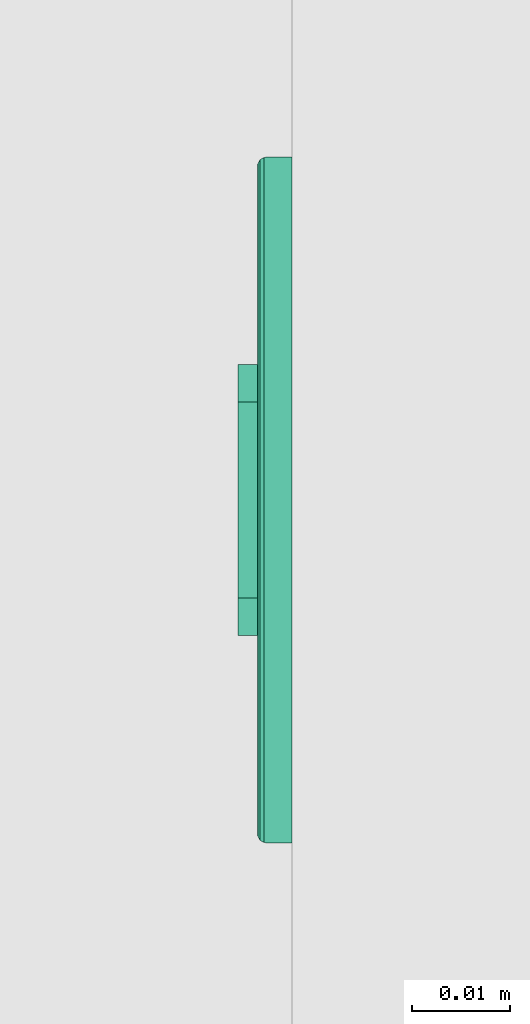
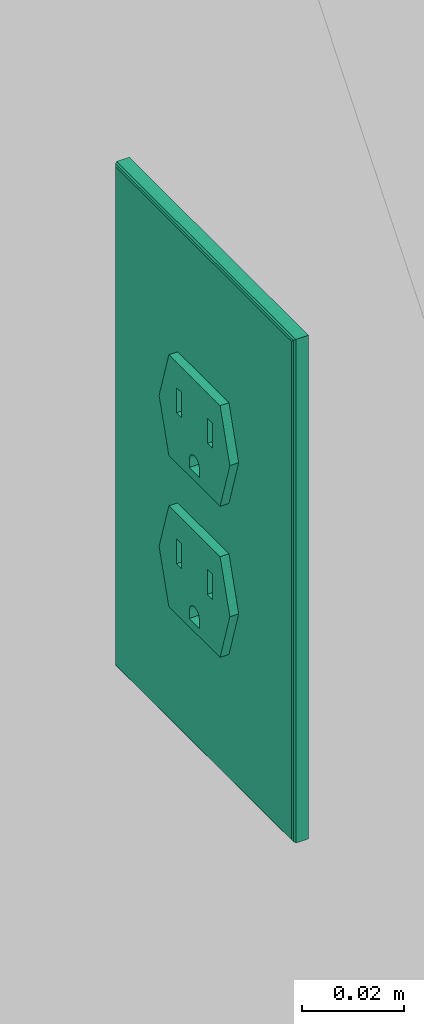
# One storey, part 34 of 103: 1 flow controller.
"""IFC2X3 building model written with IfcOpenShell, lengths in inches."""

from ifc_helpers import new_model, entity, si_unit, converted_unit, derived_unit, money_unit, direction, frame, origin_with_axes, place, context, subcontext, project, spatial, faceted_brep, source, transform, mapped, type_object, element, save


model = new_model("IFC2X3")

# Units and contexts
model_context = context("Model", 3, precision=0.00039370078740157, world=origin_with_axes(), true_north=direction((0.0, 1.0)))
plan_context = context("Plan", 3, precision=0.00039370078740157, world=origin_with_axes(), true_north=direction((0.0, 1.0)))
body_context = subcontext(model_context, "Body", "Model", "MODEL_VIEW")
ifc_project = project(units=[converted_unit("LENGTHUNIT", "INCH", entity("IfcPositiveLengthMeasure", 0.0254), si_unit("LENGTHUNIT", "METRE"), dimensions=[1, 0, 0, 0, 0, 0, 0]), converted_unit("AREAUNIT", "SQUARE_FOOT", entity("IfcPositiveLengthMeasure", 0.09290304), si_unit("AREAUNIT", "SQUARE_METRE"), dimensions=[2, 0, 0, 0, 0, 0, 0]), si_unit("PLANEANGLEUNIT", "RADIAN"), si_unit("SOLIDANGLEUNIT", "STERADIAN"), money_unit("USD"), converted_unit("TIMEUNIT", "Year", entity("IfcTimeMeasure", 31557600.0), si_unit("TIMEUNIT", "SECOND"), dimensions=[0, 0, 1, 0, 0, 0, 0]), si_unit("MASSUNIT", "GRAM", prefix="KILO"), si_unit("THERMODYNAMICTEMPERATUREUNIT", "DEGREE_CELSIUS"), si_unit("LUMINOUSINTENSITYUNIT", "LUMEN"), si_unit("ENERGYUNIT", "JOULE", prefix="MEGA"), derived_unit("SPECIFICHEATCAPACITYUNIT", [(si_unit("ENERGYUNIT", "JOULE"), 1), (si_unit("MASSUNIT", "GRAM", prefix="KILO"), -1), (si_unit("THERMODYNAMICTEMPERATUREUNIT", "KELVIN"), -1)])], contexts=[model_context, plan_context])

# Site, building, storey
site_placement = place(None, origin_with_axes())
site = spatial("IfcSite", under=ifc_project, at=site_placement, Name="Site", CompositionType="ELEMENT")
building_placement = place(site_placement, origin_with_axes())
building = spatial("IfcBuilding", under=site, at=building_placement, Name="Building", CompositionType="ELEMENT")
storey_placement = place(building_placement, frame((0.0, 0.0, 127.9999999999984), z_axis=(0.0, 0.0, 1.0), x_axis=(1.0, 0.0, 0.0)))
storey = spatial("IfcBuildingStorey", under=building, at=storey_placement, Name="Second Floor", CompositionType="ELEMENT", Elevation=128.0)

# Flow controller
switching_device_type = type_object("IfcSwitchingDeviceType", Name="Outlet 1 US", PredefinedType="NOTDEFINED")
shared_shape = source(origin_with_axes(), body_context, "Body", "Brep", [
    faceted_brep([(0.39370078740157, -0.03444881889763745, -1.18110236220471), (0.5436477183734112, -0.03444881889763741, -0.7086614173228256), (0.5436477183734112, -0.2165354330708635, -0.7086614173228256), (0.39370078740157, -0.2165354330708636, -1.18110236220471), (-0.3937007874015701, -0.03444881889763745, -1.181102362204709), (-0.543647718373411, -0.03444881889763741, -0.7086614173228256), (-0.39370078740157, -0.03444881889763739, -0.2362204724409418), (0.3937007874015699, -0.03444881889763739, -0.2362204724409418), (-0.196850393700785, -0.03444881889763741, -0.7086614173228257), (-0.196850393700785, -0.0344488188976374, -0.4724409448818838), (-0.275590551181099, -0.0344488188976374, -0.4724409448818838), (-0.275590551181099, -0.03444881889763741, -0.7086614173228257), (0.196850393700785, -0.03444881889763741, -0.7086614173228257), (0.275590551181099, -0.03444881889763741, -0.7086614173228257), (0.275590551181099, -0.0344488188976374, -0.4724409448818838), (0.196850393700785, -0.0344488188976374, -0.4724409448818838), (-0.078740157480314, -0.03444881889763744, -1.102362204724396), (0.078740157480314, -0.03444881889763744, -1.102362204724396), (0.078740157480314, -0.03444881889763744, -1.023622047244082), (0.06819097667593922, -0.03444881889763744, -0.9842519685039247), (0.03937007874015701, -0.03444881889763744, -0.9554310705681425), (0.0, -0.03444881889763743, -0.9448818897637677), (-0.03937007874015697, -0.03444881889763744, -0.9554310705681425), (-0.06819097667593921, -0.03444881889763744, -0.9842519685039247), (-0.078740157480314, -0.03444881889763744, -1.023622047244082), (0.3937007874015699, -0.2165354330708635, -0.2362204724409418), (-0.39370078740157, -0.2165354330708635, -0.2362204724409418), (-0.543647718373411, -0.2165354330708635, -0.7086614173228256), (-0.3937007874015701, -0.2165354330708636, -1.181102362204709), (-0.196850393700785, -0.2165354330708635, -0.7086614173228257), (-0.275590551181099, -0.2165354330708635, -0.7086614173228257), (-0.275590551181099, -0.2165354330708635, -0.4724409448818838), (-0.196850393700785, -0.2165354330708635, -0.4724409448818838), (0.196850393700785, -0.2165354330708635, -0.7086614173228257), (0.196850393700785, -0.2165354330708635, -0.4724409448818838), (0.275590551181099, -0.2165354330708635, -0.4724409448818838), (0.275590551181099, -0.2165354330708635, -0.7086614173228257), (-0.078740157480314, -0.2165354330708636, -1.102362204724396), (-0.078740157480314, -0.2165354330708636, -1.023622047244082), (-0.06819097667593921, -0.2165354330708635, -0.9842519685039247), (-0.03937007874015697, -0.2165354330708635, -0.9554310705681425), (0.0, -0.2165354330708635, -0.9448818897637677), (0.03937007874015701, -0.2165354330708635, -0.9554310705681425), (0.06819097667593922, -0.2165354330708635, -0.9842519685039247), (0.078740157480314, -0.2165354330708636, -1.023622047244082), (0.078740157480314, -0.2165354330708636, -1.102362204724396)], [[[0, 1, 2, 3]], [[0, 4, 5, 6, 7, 1], [8, 9, 10, 11], [12, 13, 14, 15], [16, 17, 18, 19, 20, 21, 22, 23, 24]], [[1, 7, 25, 2]], [[3, 2, 25, 26, 27, 28], [29, 30, 31, 32], [33, 34, 35, 36], [37, 38, 39, 40, 41, 42, 43, 44, 45]], [[4, 0, 3, 28]], [[5, 4, 28, 27]], [[6, 5, 27, 26]], [[7, 6, 26, 25]], [[9, 8, 29, 32]], [[10, 9, 32, 31]], [[11, 10, 31, 30]], [[8, 11, 30, 29]], [[13, 12, 33, 36]], [[14, 13, 36, 35]], [[15, 14, 35, 34]], [[12, 15, 34, 33]], [[17, 16, 37, 45]], [[18, 17, 45, 44]], [[19, 18, 44, 43]], [[20, 19, 43, 42]], [[21, 20, 42, 41]], [[22, 21, 41, 40]], [[23, 22, 40, 39]], [[24, 23, 39, 38]], [[16, 24, 38, 37]]]),
    faceted_brep([(0.39370078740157, -0.03444881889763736, 0.2362204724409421), (0.5436477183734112, -0.03444881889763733, 0.7086614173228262), (0.5436477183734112, -0.2165354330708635, 0.7086614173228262), (0.39370078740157, -0.2165354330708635, 0.2362204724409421), (-0.3937007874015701, -0.03444881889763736, 0.2362204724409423), (-0.543647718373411, -0.03444881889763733, 0.7086614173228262), (-0.39370078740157, -0.0344488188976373, 1.18110236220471), (0.3937007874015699, -0.0344488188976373, 1.18110236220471), (-0.196850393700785, -0.03444881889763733, 0.7086614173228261), (-0.196850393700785, -0.03444881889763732, 0.944881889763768), (-0.275590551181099, -0.03444881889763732, 0.944881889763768), (-0.275590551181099, -0.03444881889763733, 0.7086614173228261), (0.196850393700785, -0.03444881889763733, 0.7086614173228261), (0.275590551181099, -0.03444881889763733, 0.7086614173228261), (0.275590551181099, -0.03444881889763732, 0.944881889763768), (0.196850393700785, -0.03444881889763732, 0.944881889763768), (-0.078740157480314, -0.03444881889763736, 0.3149606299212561), (0.078740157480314, -0.03444881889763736, 0.3149606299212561), (0.078740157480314, -0.03444881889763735, 0.3937007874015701), (0.06819097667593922, -0.03444881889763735, 0.4330708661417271), (0.03937007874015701, -0.03444881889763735, 0.4618917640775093), (0.0, -0.03444881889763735, 0.472440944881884), (-0.03937007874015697, -0.03444881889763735, 0.4618917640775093), (-0.06819097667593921, -0.03444881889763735, 0.4330708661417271), (-0.078740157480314, -0.03444881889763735, 0.3937007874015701), (0.3937007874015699, -0.2165354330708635, 1.18110236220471), (-0.39370078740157, -0.2165354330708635, 1.18110236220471), (-0.543647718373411, -0.2165354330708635, 0.7086614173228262), (-0.3937007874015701, -0.2165354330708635, 0.2362204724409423), (-0.196850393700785, -0.2165354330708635, 0.7086614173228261), (-0.275590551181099, -0.2165354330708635, 0.7086614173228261), (-0.275590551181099, -0.2165354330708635, 0.944881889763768), (-0.196850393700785, -0.2165354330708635, 0.944881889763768), (0.196850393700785, -0.2165354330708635, 0.7086614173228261), (0.196850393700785, -0.2165354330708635, 0.944881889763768), (0.275590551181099, -0.2165354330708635, 0.944881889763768), (0.275590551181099, -0.2165354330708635, 0.7086614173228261), (-0.078740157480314, -0.2165354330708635, 0.3149606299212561), (-0.078740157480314, -0.2165354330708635, 0.3937007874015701), (-0.06819097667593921, -0.2165354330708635, 0.4330708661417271), (-0.03937007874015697, -0.2165354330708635, 0.4618917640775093), (0.0, -0.2165354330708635, 0.472440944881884), (0.03937007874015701, -0.2165354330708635, 0.4618917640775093), (0.06819097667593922, -0.2165354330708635, 0.4330708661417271), (0.078740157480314, -0.2165354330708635, 0.3937007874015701), (0.078740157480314, -0.2165354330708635, 0.3149606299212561)], [[[0, 1, 2, 3]], [[0, 4, 5, 6, 7, 1], [8, 9, 10, 11], [12, 13, 14, 15], [16, 17, 18, 19, 20, 21, 22, 23, 24]], [[1, 7, 25, 2]], [[3, 2, 25, 26, 27, 28], [29, 30, 31, 32], [33, 34, 35, 36], [37, 38, 39, 40, 41, 42, 43, 44, 45]], [[4, 0, 3, 28]], [[5, 4, 28, 27]], [[6, 5, 27, 26]], [[7, 6, 26, 25]], [[9, 8, 29, 32]], [[10, 9, 32, 31]], [[11, 10, 31, 30]], [[8, 11, 30, 29]], [[13, 12, 33, 36]], [[14, 13, 36, 35]], [[15, 14, 35, 34]], [[12, 15, 34, 33]], [[17, 16, 37, 45]], [[18, 17, 45, 44]], [[19, 18, 44, 43]], [[20, 19, 43, 42]], [[21, 20, 42, 41]], [[22, 21, 41, 40]], [[23, 22, 40, 39]], [[24, 23, 39, 38]], [[16, 24, 38, 37]]]),
    faceted_brep([(-1.343503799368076, -0.1377952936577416, -2.327755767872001), (1.343503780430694, -0.1377952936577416, -2.327755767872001), (1.343503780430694, -0.1377952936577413, 2.327755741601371), (-1.343503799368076, -0.1377952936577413, 2.327755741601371), (0.39370078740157, -0.1377952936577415, -1.18110236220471), (-0.3937007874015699, -0.1377952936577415, -1.181102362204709), (-0.5436477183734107, -0.1377952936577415, -0.7086614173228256), (-0.39370078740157, -0.1377952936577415, -0.2362204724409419), (0.3937007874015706, -0.1377952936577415, -0.2362204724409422), (0.5436477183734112, -0.1377952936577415, -0.7086614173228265), (-0.39370078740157, -0.1377952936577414, 1.18110236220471), (0.3937007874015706, -0.1377952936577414, 1.18110236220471), (0.5436477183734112, -0.1377952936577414, 0.7086614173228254), (0.39370078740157, -0.1377952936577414, 0.236220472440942), (-0.3937007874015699, -0.1377952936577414, 0.2362204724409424), (-0.5436477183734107, -0.1377952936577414, 0.7086614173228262), (-1.352419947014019, -0.1366214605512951, -2.336671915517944), (1.352419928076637, -0.1366214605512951, -2.336671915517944), (1.352419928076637, -0.1366214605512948, 2.336671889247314), (-1.352419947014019, -0.1366214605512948, 2.336671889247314), (0.39370078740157, -0.03444881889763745, -1.18110236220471), (-0.3937007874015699, -0.03444881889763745, -1.181102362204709), (-0.5436477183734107, -0.03444881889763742, -0.7086614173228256), (-0.39370078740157, -0.03444881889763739, -0.2362204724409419), (0.3937007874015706, -0.03444881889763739, -0.2362204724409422), (0.5436477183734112, -0.03444881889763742, -0.7086614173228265), (-0.39370078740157, -0.0344488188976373, 1.18110236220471), (0.3937007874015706, -0.0344488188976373, 1.18110236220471), (0.5436477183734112, -0.03444881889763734, 0.7086614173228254), (0.39370078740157, -0.03444881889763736, 0.236220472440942), (-0.3937007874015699, -0.03444881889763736, 0.2362204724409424), (-0.5436477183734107, -0.03444881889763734, 0.7086614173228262), (-1.36786294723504, -0.1277054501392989, -2.352114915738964), (1.367862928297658, -0.1277054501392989, -2.352114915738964), (1.367862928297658, -0.1277054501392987, 2.352114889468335), (-1.36786294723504, -0.1277054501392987, 2.352114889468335), (-1.376778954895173, -0.1122624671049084, -2.361030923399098), (1.376778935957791, -0.1122624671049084, -2.361030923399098), (1.376778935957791, -0.1122624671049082, 2.361030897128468), (-1.376778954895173, -0.1122624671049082, 2.361030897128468), (-1.377952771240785, -0.1033464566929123, -2.362204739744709), (1.377952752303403, -0.1033464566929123, -2.362204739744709), (1.377952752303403, -0.103346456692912, 2.36220471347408), (-1.377952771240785, -0.103346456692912, 2.36220471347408), (-1.377952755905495, 0.0, -2.36220472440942), (1.377952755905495, 0.0, -2.36220472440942), (1.377952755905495, 0.0, 2.36220472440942), (-1.377952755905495, 0.0, 2.36220472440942)], [[[0, 1, 2, 3], [4, 5, 6, 7, 8, 9], [10, 11, 12, 13, 14, 15]], [[1, 0, 16, 17]], [[2, 1, 17, 18]], [[3, 2, 18, 19]], [[0, 3, 19, 16]], [[4, 20, 21, 5]], [[5, 21, 22, 6]], [[6, 22, 23, 7]], [[7, 23, 24, 8]], [[8, 24, 25, 9]], [[9, 25, 20, 4]], [[11, 10, 26, 27]], [[12, 11, 27, 28]], [[13, 12, 28, 29]], [[14, 13, 29, 30]], [[15, 14, 30, 31]], [[10, 15, 31, 26]], [[17, 16, 32, 33]], [[18, 17, 33, 34]], [[19, 18, 34, 35]], [[16, 19, 35, 32]], [[22, 21, 20, 25, 24, 23]], [[28, 27, 26, 31, 30, 29]], [[33, 32, 36, 37]], [[34, 33, 37, 38]], [[35, 34, 38, 39]], [[32, 35, 39, 36]], [[37, 36, 40, 41]], [[38, 37, 41, 42]], [[39, 38, 42, 43]], [[36, 39, 43, 40]], [[41, 40, 44, 45]], [[42, 41, 45, 46]], [[43, 42, 46, 47]], [[40, 43, 47, 44]], [[46, 45, 44, 47]]]),
])
flow_controller_placement = place(storey_placement, frame((421.499999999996, 220.9999999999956, 13.99999999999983), z_axis=(0.0, 0.0, 1.0), x_axis=(0.0, -1.0, 0.0)))
element("IfcFlowController", 1, at=flow_controller_placement, inside=storey, type_object=switching_device_type, Name="FU - 029", context=body_context, shape_type="MappedRepresentation", body=[
    mapped(shared_shape, transform((0.0, 0.0, 0.0))),
])

save(model, "model.ifc")
